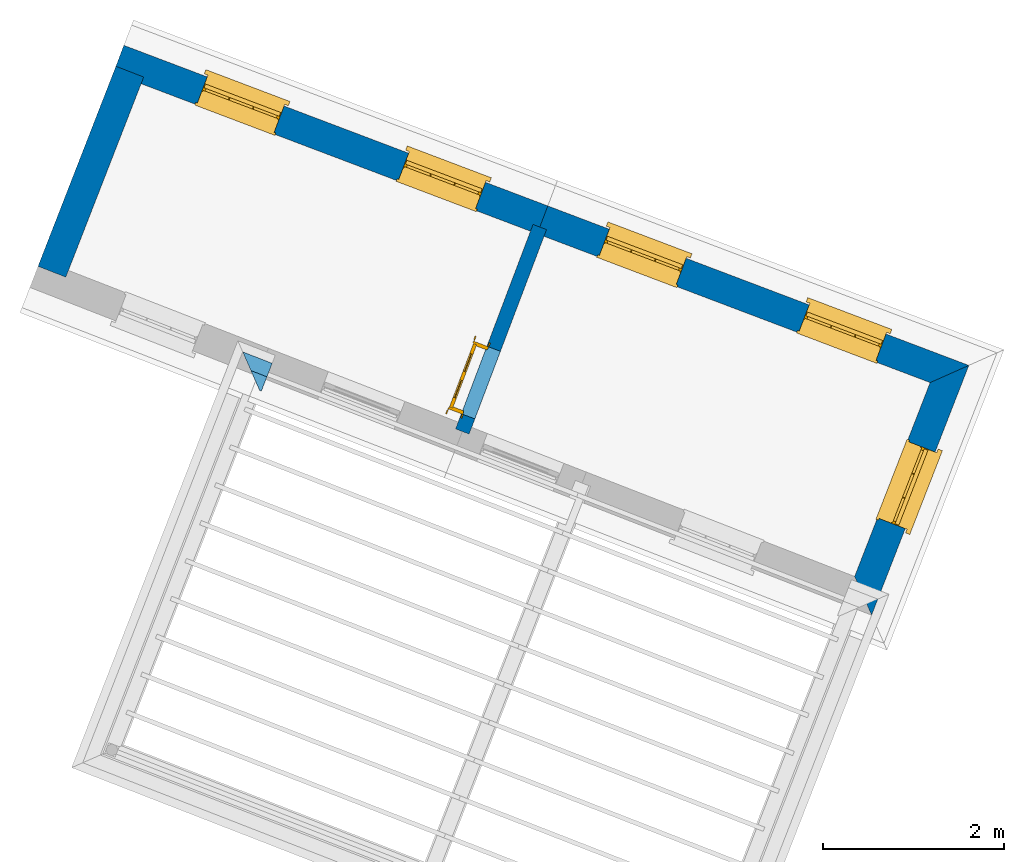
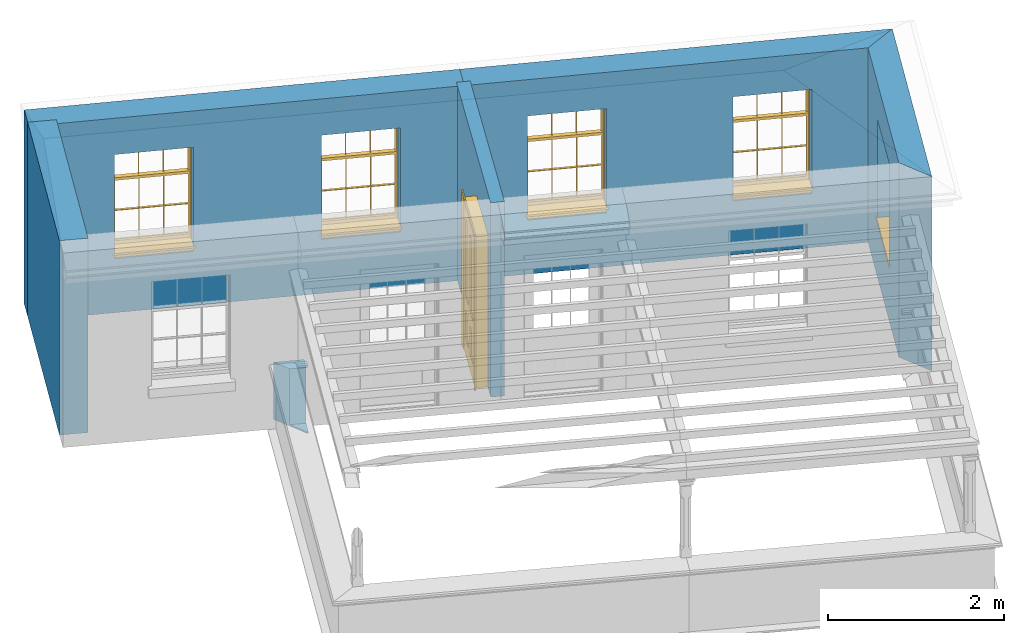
# One storey, part 4 of 5: 6 walls, 5 windows, 1 door, 6 openings.
"""IFC4 building model written with IfcOpenShell, lengths in metres."""

import ifcopenshell
import ifcopenshell.guid

model = None  # the IFC model being written
_history = None  # IfcOwnerHistory: only IFC2X3 demands one
_inside = {}  # id of a spatial element -> (the spatial element, [elements in it])
_under = {}  # id of a project, library or spatial element -> (it, [spatial elements below it])
_declared = {}  # id of a project -> (the project, [libraries it declares])
_typed = {}  # id of a type object -> (the type object, [elements of that type])
_made_of = {}  # id of a material, layer set ... -> (it, [elements and type objects made of it])


def new_model(schema):
    """Start an empty IFC model of exactly this schema.

    Asked for "IFC4X3", IfcOpenShell would pick the latest addendum, in which some entities
    have other attributes; the version numbers below select the first issue.
    IFC2X3 requires an IfcOwnerHistory on every rooted entity: one is made here for all.
    """
    global model, _history
    if schema == "IFC4X3":
        model = ifcopenshell.file(schema_version=(4, 3, 0, 0))
    else:
        model = ifcopenshell.file(schema=schema)
    _inside.clear()
    _under.clear()
    _declared.clear()
    _typed.clear()
    _made_of.clear()
    _history = None
    if model.schema == "IFC2X3":
        org = make("IfcOrganization", Name="unknown")
        user = make(
            "IfcPersonAndOrganization",
            ThePerson=make("IfcPerson", FamilyName="unknown"),
            TheOrganization=org,
        )
        app = make(
            "IfcApplication",
            ApplicationDeveloper=org,
            Version="unknown",
            ApplicationFullName="unknown",
            ApplicationIdentifier="unknown",
        )
        _history = make(
            "IfcOwnerHistory",
            OwningUser=user,
            OwningApplication=app,
            ChangeAction="ADDED",
            CreationDate=0,
        )
    return model


def make(cls, **values):
    """One entity of the class cls with the attributes given. An attribute that is None is left unset."""
    return model.create_entity(
        cls, **{name: value for name, value in values.items() if value is not None}
    )


def rooted(cls, **values):
    """An entity with a GlobalId (a new one), such as an element, a storey or a relation."""
    return make(cls, GlobalId=ifcopenshell.guid.new(), OwnerHistory=_history, **values)


def si_unit(unit_type, name, prefix=None):
    """IfcSIUnit, for example si_unit("LENGTHUNIT", "METRE", prefix="MILLI")."""
    return make("IfcSIUnit", UnitType=unit_type, Prefix=prefix, Name=name)


def assignment(units):
    """IfcUnitAssignment: the units of a project."""
    return None if units is None else make("IfcUnitAssignment", Units=units)


def point(xyz):
    """IfcCartesianPoint."""
    return None if xyz is None else make("IfcCartesianPoint", Coordinates=xyz)


def direction(xyz):
    """IfcDirection."""
    return None if xyz is None else make("IfcDirection", DirectionRatios=xyz)


def frame(location, z_axis=None, x_axis=None):
    """IfcAxis2Placement3D, a coordinate frame: its origin and axes. An axis left out is left unset."""
    return make(
        "IfcAxis2Placement3D",
        Location=point(location),
        Axis=direction(z_axis),
        RefDirection=direction(x_axis),
    )


def origin():
    """The frame at (0, 0, 0) with its axes left unset."""
    return frame((0.0, 0.0, 0.0))


def origin_with_axes():
    """The frame at (0, 0, 0) with the z axis (0, 0, 1) and the x axis (1, 0, 0) written out."""
    return frame((0.0, 0.0, 0.0), z_axis=(0.0, 0.0, 1.0), x_axis=(1.0, 0.0, 0.0))


def place(relative_to, where):
    """IfcLocalPlacement: puts the frame where relative to a parent placement (None: the world)."""
    return make(
        "IfcLocalPlacement", PlacementRelTo=relative_to, RelativePlacement=where
    )


def context(
    kind, dimensions, precision=None, world=None, true_north=None, identifier=None
):
    """IfcGeometricRepresentationContext, for example the 3D "Model" context."""
    return make(
        "IfcGeometricRepresentationContext",
        ContextIdentifier=identifier,
        ContextType=kind,
        CoordinateSpaceDimension=dimensions,
        Precision=precision,
        WorldCoordinateSystem=world,
        TrueNorth=true_north,
    )


def subcontext(parent, identifier, kind, view, scale=None):
    """IfcGeometricRepresentationSubContext, for example "Body" below "Model"."""
    return make(
        "IfcGeometricRepresentationSubContext",
        ContextIdentifier=identifier,
        ContextType=kind,
        ParentContext=parent,
        TargetScale=scale,
        TargetView=view,
    )


def project(units=None, contexts=None):
    """IfcProject with its units and contexts."""
    return rooted(
        "IfcProject",
        Name="project",
        RepresentationContexts=contexts,
        UnitsInContext=assignment(units),
    )


def spatial(cls, under=None, at=None, **own):
    """A site, building, storey or space (cls), placed at a placement, below another one or the project."""
    s = rooted(cls, ObjectPlacement=at, **own)
    if under is not None:
        _under.setdefault(under.id(), (under, []))[1].append(s)
    return s


def polyline(points):
    """IfcPolyline through the points."""
    return make("IfcPolyline", Points=[point(p) for p in points])


def outline(outer, holes=None, kind="AREA"):
    """IfcArbitraryClosedProfileDef: a profile drawn as a closed curve; with holes, ...WithVoids."""
    if holes is None:
        return make("IfcArbitraryClosedProfileDef", ProfileType=kind, OuterCurve=outer)
    return make(
        "IfcArbitraryProfileDefWithVoids",
        ProfileType=kind,
        OuterCurve=outer,
        InnerCurves=holes,
    )


def extrude(swept, where, along, depth):
    """IfcExtrudedAreaSolid: the profile swept, set in the frame where, extruded along a direction by depth."""
    return make(
        "IfcExtrudedAreaSolid",
        SweptArea=swept,
        Position=where,
        ExtrudedDirection=direction(along),
        Depth=depth,
    )


def clip(a, b, op="DIFFERENCE"):
    """IfcBooleanClippingResult: the solid a cut by the half space b."""
    return make(
        "IfcBooleanClippingResult", Operator=op, FirstOperand=a, SecondOperand=b
    )


def halfspace(plane, agree):
    """IfcHalfSpaceSolid: all space on one side of the plane z = 0 of the frame plane."""
    return make(
        "IfcHalfSpaceSolid",
        BaseSurface=make("IfcPlane", Position=plane),
        AgreementFlag=agree,
    )


def faces_of(points, faces, orient=None, outer=None):
    """IfcFace entities. A face is a list of loops; a loop is a list of indices into points, from 0.

    orient and outer hold one flag for each loop. By default every Orientation is true, the
    first loop of a face is its IfcFaceOuterBound and the others are IfcFaceBound.
    """
    made = []
    for i, loops in enumerate(faces):
        bounds = []
        for j, loop in enumerate(loops):
            is_outer = j == 0 if outer is None else outer[i][j]
            bounds.append(
                make(
                    "IfcFaceOuterBound" if is_outer else "IfcFaceBound",
                    Bound=make("IfcPolyLoop", Polygon=[points[k] for k in loop]),
                    Orientation=True if orient is None else orient[i][j],
                )
            )
        made.append(make("IfcFace", Bounds=bounds))
    return made


def faceted_brep(points, faces, orient=None, outer=None, voids=None):
    """IfcFacetedBrep: a solid bounded by flat faces; with voids (closed shells), ...WithVoids."""
    shared = [point(p) for p in points]
    hull = make("IfcClosedShell", CfsFaces=faces_of(shared, faces, orient, outer))
    if voids is None:
        return make("IfcFacetedBrep", Outer=hull)
    return make(
        "IfcFacetedBrepWithVoids",
        Outer=hull,
        Voids=[
            make(cls, CfsFaces=faces_of(shared, fs, o, b)) for cls, fs, o, b in voids
        ],
    )


def shape(context_of_items, identifier, shape_type, items):
    """IfcShapeRepresentation: the items that make up one representation, for example the "Body"."""
    return make(
        "IfcShapeRepresentation",
        ContextOfItems=context_of_items,
        RepresentationIdentifier=identifier,
        RepresentationType=shape_type,
        Items=items,
    )


def source(mapping_origin, context_of_items, identifier, shape_type, items):
    """IfcRepresentationMap: a shape defined once, which mapped items show again and again."""
    return make(
        "IfcRepresentationMap",
        MappingOrigin=mapping_origin,
        MappedRepresentation=shape(context_of_items, identifier, shape_type, items),
    )


def transform(
    local_origin,
    x_axis=None,
    y_axis=None,
    z_axis=None,
    scale=None,
    scale2=None,
    scale3=None,
    uniform=True,
):
    """IfcCartesianTransformationOperator3D, or its non-uniform kind. x_axis, y_axis, z_axis: its Axis1, 2, 3."""
    if uniform:
        return make(
            "IfcCartesianTransformationOperator3D",
            Axis1=direction(x_axis),
            Axis2=direction(y_axis),
            LocalOrigin=point(local_origin),
            Scale=scale,
            Axis3=direction(z_axis),
        )
    return make(
        "IfcCartesianTransformationOperator3DnonUniform",
        Axis1=direction(x_axis),
        Axis2=direction(y_axis),
        LocalOrigin=point(local_origin),
        Scale=scale,
        Axis3=direction(z_axis),
        Scale2=scale2,
        Scale3=scale3,
    )


def mapped(mapping_source, mapping_target):
    """IfcMappedItem: shows the shape of a source again, moved by a transform."""
    return make(
        "IfcMappedItem", MappingSource=mapping_source, MappingTarget=mapping_target
    )


def material(Name=None, Category=None):
    """IfcMaterial."""
    return make("IfcMaterial", Name=Name, Category=Category)


def layer(
    of_material, thickness, ventilated=None, Name=None, Category=None, Priority=None
):
    """IfcMaterialLayer: one layer of a wall or slab, of a material (None: an air gap)."""
    return make(
        "IfcMaterialLayer",
        Material=of_material,
        LayerThickness=thickness,
        IsVentilated=ventilated,
        Name=Name,
        Category=Category,
        Priority=Priority,
    )


def layer_set(layers, Name=None):
    """IfcMaterialLayerSet."""
    return make("IfcMaterialLayerSet", MaterialLayers=layers, LayerSetName=Name)


def layer_usage(for_layer_set, set_direction, sense, offset, extent=None):
    """IfcMaterialLayerSetUsage: how a layer set lies in its element."""
    return make(
        "IfcMaterialLayerSetUsage",
        ForLayerSet=for_layer_set,
        LayerSetDirection=set_direction,
        DirectionSense=sense,
        OffsetFromReferenceLine=offset,
        ReferenceExtent=extent,
    )


def material_profile(
    of_material, cross_section, Name=None, Category=None, Priority=None
):
    """IfcMaterialProfile: a cross section and its material."""
    return make(
        "IfcMaterialProfile",
        Name=Name,
        Material=of_material,
        Profile=cross_section,
        Priority=Priority,
        Category=Category,
    )


def profile_set(profiles, Name=None, composite=None):
    """IfcMaterialProfileSet."""
    return make(
        "IfcMaterialProfileSet",
        Name=Name,
        MaterialProfiles=profiles,
        CompositeProfile=composite,
    )


def profile_usage(for_profile_set, cardinal=None, extent=None):
    """IfcMaterialProfileSetUsage: how a profile set lies along its element."""
    return make(
        "IfcMaterialProfileSetUsage",
        ForProfileSet=for_profile_set,
        CardinalPoint=cardinal,
        ReferenceExtent=extent,
    )


def made_of(thing, what):
    """Note that an element or type object is made of a material, layer set ...; save() writes the relation."""
    if what is not None:
        _made_of.setdefault(what.id(), (what, []))[1].append(thing)
    return thing


def type_object(cls, material=None, **own):
    """A type object (cls), such as IfcWallType, which elements share."""
    return made_of(rooted(cls, **own), material)


def type_shapes(of_type, sources):
    """Give a type object the sources (RepresentationMaps) that its elements show as mapped items."""
    of_type.RepresentationMaps = sources


def element(
    cls,
    number,
    at=None,
    inside=None,
    cuts=None,
    type_object=None,
    material=None,
    context=None,
    identifier="Body",
    shape_type=None,
    held_by="IfcProductDefinitionShape",
    body=None,
    shapes=None,
    **own,
):
    """One element of the class cls, such as IfcWall. Its Tag is "e" and its number.

    at: its placement. inside: the storey or other place that contains it. cuts: it is an
    opening in that element (IfcRelVoidsElement). A single representation is given by context,
    identifier, shape_type and body (its items); several are given by shapes. held_by: the class
    of the entity that holds the representations. save() writes the other relations.
    """
    e = rooted(cls, Tag="e%d" % number, ObjectPlacement=at, **own)
    if body is not None:
        shapes = [shape(context, identifier, shape_type, body)]
    if shapes is not None:
        e.Representation = make(held_by, Representations=shapes)
    if inside is not None:
        _inside.setdefault(inside.id(), (inside, []))[1].append(e)
    if cuts is not None:
        rooted(
            "IfcRelVoidsElement", RelatingBuildingElement=cuts, RelatedOpeningElement=e
        )
    if type_object is not None:
        _typed.setdefault(type_object.id(), (type_object, []))[1].append(e)
    return made_of(e, material)


def fill(opening, filler):
    """IfcRelFillsElement: the door or window that sits in an opening."""
    return rooted(
        "IfcRelFillsElement",
        RelatingOpeningElement=opening,
        RelatedBuildingElement=filler,
    )


def aggregate(whole, parts):
    """IfcRelAggregates: a whole, such as a stair, and the parts it consists of."""
    return rooted("IfcRelAggregates", RelatingObject=whole, RelatedObjects=parts)


def save(model, path):
    """Write the relations noted so far, then the file.

    IfcRelAggregates (storeys below a building ...), IfcRelContainedInSpatialStructure (elements
    in a storey), IfcRelDefinesByType, IfcRelAssociatesMaterial and IfcRelDeclares: one each for
    every whole, place, type object, material and project.
    """
    for whole, parts in _under.values():
        aggregate(whole, parts)
    for where, things in _inside.values():
        rooted(
            "IfcRelContainedInSpatialStructure",
            RelatedElements=things,
            RelatingStructure=where,
        )
    for kind, things in _typed.values():
        rooted("IfcRelDefinesByType", RelatedObjects=things, RelatingType=kind)
    for what, things in _made_of.values():
        rooted("IfcRelAssociatesMaterial", RelatedObjects=things, RelatingMaterial=what)
    for by, libraries in _declared.values():
        rooted("IfcRelDeclares", RelatingContext=by, RelatedDefinitions=libraries)
    model.write(path)


model = new_model("IFC4")

# Units and contexts
model_context = context("Model", 3, world=origin_with_axes())
body_context = subcontext(model_context, "Body", "Model", "MODEL_VIEW")
ifc_project = project(units=[si_unit("PLANEANGLEUNIT", "RADIAN"), si_unit("MASSUNIT", "GRAM", prefix="KILO"), si_unit("FORCEUNIT", "NEWTON", prefix="KILO"), si_unit("LENGTHUNIT", "METRE"), si_unit("AREAUNIT", "SQUARE_METRE"), si_unit("VOLUMEUNIT", "CUBIC_METRE")], contexts=[model_context, model_context])

# Sites, building, storey
site_1_placement = place(None, origin_with_axes())
site_1 = spatial("IfcSite", under=ifc_project, at=site_1_placement, Name="Tamar")
site_2_placement = place(site_1_placement, origin_with_axes())
site_2 = spatial("IfcSite", under=site_1, at=site_2_placement, Name="Site plot-8", CompositionType="ELEMENT")
building_placement = place(None, origin_with_axes())
building = spatial("IfcBuilding", under=site_2, at=building_placement, Name="Building plot-8", CompositionType="ELEMENT")
storey_placement = place(None, frame((0.0, 0.0, 31.55), z_axis=(0.0, 0.0, 1.0), x_axis=(1.0, 0.0, 0.0)))
storey = spatial("IfcBuildingStorey", under=building, at=storey_placement, Name="plot-8 2", CompositionType="ELEMENT", Elevation=31.55)

# Wall, opening, window
ifc_material_1 = material(Name="Masonry")
ifc_layer_1 = layer(ifc_material_1, 0.33, ventilated=False)
ifc_layer_set_1 = layer_set([ifc_layer_1], Name="exterior_0.08_0.25")
ifc_layer_usage_1 = layer_usage(ifc_layer_set_1, "AXIS2", "POSITIVE", -0.25)
wall_type_1 = type_object("IfcWallType", Name="exterior_0.08_0.25", PredefinedType="SOLIDWALL", material=ifc_layer_set_1)
wall_1_placement = place(storey_placement, frame((230.544976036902, 306.768588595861, 0.0), z_axis=(0.0, 0.0, 1.0), x_axis=(0.362808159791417, 0.931863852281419, 0.0)))
wall_1 = element("IfcWall", 1, at=wall_1_placement, inside=storey, type_object=wall_type_1, material=ifc_layer_usage_1, Name="exterior", context=body_context, shape_type="SweptSolid", body=[
    extrude(outline(polyline([(0.0800000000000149, 0.080000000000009), (-0.250000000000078, -0.249999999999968), (2.71687862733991, -0.249999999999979), (2.38382254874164, 0.0800000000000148), (0.0800000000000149, 0.080000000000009)])), origin_with_axes(), (0.0, 0.0, 1.0), 2.7),
])
opening_1_placement = place(wall_1_placement, frame((0.777281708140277, 0.0, 0.749999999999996)))
opening_1 = element("IfcOpeningElement", 2, at=opening_1_placement, cuts=wall_1, Name="My Opening", ObjectType="Opening", context=body_context, shape_type="SweptSolid", body=[
    extrude(outline(polyline([(0.0, -0.269999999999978), (0.910000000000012, -0.269999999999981), (0.909999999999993, 1.1), (-1.94289029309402e-14, 1.1), (0.0, -0.269999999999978)])), origin_with_axes(), (0.0, 0.0, 1.0), 1.445),
])
window_type = type_object("IfcWindowType", Name="sash_shorter", PartitioningType="DOUBLE_PANEL_HORIZONTAL", PredefinedType="NOTDEFINED")
shared_shape_1 = source(origin(), body_context, "Body", "Brep", [
    faceted_brep([(0.876875, 0.145, 0.999097), (0.876875, 0.145, 1.411875), (0.9, 0.145, 1.435), (0.033125, 0.145, 1.411875), (0.033125, 0.145, 0.999097), (0.01, 0.145, 1.435), (0.033125, 0.115, 1.411875), (0.01, 0.115, 1.435), (0.033125, 0.115, 0.999097), (0.876875, 0.115, 1.411875), (0.876875, 0.115, 0.999097), (0.9, 0.115, 1.435), (0.033125, 0.145, 0.960972), (0.01, 0.145, 0.960972), (0.033125, 0.145, 0.548195), (0.876875, 0.145, 0.960972), (0.876875, 0.145, 0.548195), (0.9, 0.145, 0.960972), (0.876875, 0.145, 0.538195), (0.876875, 0.145, 0.125417), (0.9, 0.145, 0.077167), (0.033125, 0.145, 0.125417), (0.033125, 0.145, 0.538195), (0.01, 0.145, 0.077167), (0.9, 0.115, 0.960972), (0.01, 0.115, 0.960972), (-0.0425, 0.0, 0.01), (-0.0425, -0.05, 0.001667), (0.0, 0.0, 0.01), (0.9525, 0.0, 0.01), (0.91, 0.0, 0.01), (0.9525, -0.05, 0.001667), (-0.02, 0.33, 0.077167), (0.0, 0.33, 0.077167), (-0.02, 0.36, 0.077167), (0.0, 0.19, 0.077167), (0.01, 0.19, 0.077167), (0.91, 0.19, 0.077167), (0.91, 0.33, 0.077167), (0.9, 0.19, 0.077167), (0.93, 0.33, 0.077167), (0.93, 0.36, 0.077167), (0.01, 0.145, 0.999097), (0.01, 0.175, 0.999097), (0.9, 0.145, 0.999097), (0.9, 0.175, 0.999097), (0.876875, 0.175, 0.125417), (0.876875, 0.175, 0.538195), (0.9, 0.175, 0.077167), (0.876875, 0.175, 0.548195), (0.876875, 0.175, 0.960972), (0.033125, 0.175, 0.125417), (0.01, 0.175, 0.077167), (0.033125, 0.175, 0.538195), (0.033125, 0.175, 0.960972), (0.033125, 0.175, 0.548195), (-0.02, 0.33, 0.052167), (-0.02, 0.36, 0.052167), (0.93, 0.36, 0.052167), (0.93, 0.33, 0.052167), (0.91, 0.33, 0.052167), (0.0, 0.33, 0.052167), (0.91, 0.1, 0.026667), (0.0, 0.1, 0.026667), (-0.0425, -0.05, -0.123333), (0.9525, -0.05, -0.123333), (-0.0425, 0.0, -0.123333), (0.9525, 0.0, -0.123333), (0.01, 0.19, 1.435), (0.9, 0.19, 1.435), (0.0, 0.19, 1.445), (0.91, 0.19, 1.445), (0.01, 0.1, 0.077167), (0.9, 0.1, 0.077167), (0.592292, 0.145, 0.125417), (0.592292, 0.175, 0.125417), (0.317708, 0.175, 0.125417), (0.317708, 0.145, 0.125417), (0.592292, 0.145, 0.548195), (0.317708, 0.145, 0.548195), (0.317708, 0.145, 0.538195), (0.592292, 0.145, 0.538195), (0.592292, 0.175, 0.548195), (0.317708, 0.175, 0.548195), (0.602292, 0.175, 0.548195), (0.602292, 0.145, 0.548195), (0.317708, 0.175, 0.538195), (0.307708, 0.175, 0.125417), (0.307708, 0.175, 0.538195), (0.602292, 0.175, 0.538195), (0.602292, 0.175, 0.125417), (0.592292, 0.175, 0.538195), (0.307708, 0.175, 0.548195), (0.317708, 0.175, 0.960972), (0.307708, 0.175, 0.960972), (0.602292, 0.175, 0.960972), (0.592292, 0.175, 0.960972), (0.307708, 0.145, 0.538195), (0.307708, 0.145, 0.125417), (0.307708, 0.145, 0.548195), (0.307708, 0.145, 0.960972), (0.592292, 0.145, 0.960972), (0.317708, 0.145, 0.960972), (0.602292, 0.145, 0.960972), (0.602292, 0.145, 0.538195), (0.602292, 0.145, 0.125417), (0.317708, 0.115, 1.411875), (0.307708, 0.115, 1.411875), (0.307708, 0.115, 0.999097), (0.317708, 0.115, 0.999097), (0.602292, 0.115, 1.411875), (0.592292, 0.115, 1.411875), (0.592292, 0.115, 0.999097), (0.602292, 0.115, 0.999097), (0.317708, 0.145, 0.999097), (0.307708, 0.145, 0.999097), (0.307708, 0.145, 1.411875), (0.317708, 0.145, 1.411875), (0.602292, 0.145, 0.999097), (0.592292, 0.145, 0.999097), (0.592292, 0.145, 1.411875), (0.602292, 0.145, 1.411875), (0.91, 0.1, 1.445), (0.9, 0.1, 1.435), (0.01, 0.1, 1.435), (0.0, 0.1, 1.445), (0.91, 0.0, 0.0), (0.0, 0.0, 0.0), (0.91, 0.33, 0.0), (0.0, 0.33, 0.0)], [[[0, 1, 2]], [[3, 4, 5]], [[6, 7, 8]], [[9, 10, 11]], [[12, 13, 14]], [[15, 16, 17]], [[18, 19, 20]], [[21, 22, 23]], [[24, 15, 17]], [[13, 12, 25]], [[26, 27, 28]], [[29, 30, 31]], [[32, 33, 34]], [[35, 36, 33]], [[37, 38, 39]], [[40, 41, 38]], [[42, 4, 43]], [[44, 45, 0]], [[46, 47, 48]], [[49, 50, 45]], [[51, 52, 53]], [[54, 55, 43]], [[38, 33, 36, 39]], [[41, 34, 33, 38]], [[56, 32, 34, 57]], [[57, 34, 41, 58]], [[58, 41, 40, 59]], [[57, 58, 60, 61]], [[52, 48, 39, 36]], [[62, 63, 28, 30]], [[27, 31, 30, 28]], [[27, 64, 65, 31]], [[66, 67, 65, 64]], [[2, 5, 68, 69]], [[68, 70, 71, 69]], [[20, 23, 72, 73]], [[73, 72, 63, 62]], [[74, 75, 76, 77]], [[78, 79, 80, 81]], [[78, 82, 83, 79]], [[16, 49, 84, 85]], [[86, 76, 87, 88]], [[89, 90, 75, 91]], [[92, 88, 53, 55]], [[82, 91, 86, 83]], [[93, 83, 92, 94]], [[95, 84, 82, 96]], [[89, 84, 49, 47]], [[97, 88, 87, 98]], [[22, 53, 88, 97]], [[81, 91, 75, 74]], [[80, 86, 91, 81]], [[77, 76, 86, 80]], [[99, 92, 55, 14]], [[100, 94, 92, 99]], [[101, 96, 82, 78]], [[79, 83, 93, 102]], [[85, 84, 95, 103]], [[104, 89, 47, 18]], [[105, 90, 89, 104]], [[104, 18, 16, 85]], [[80, 97, 98, 77]], [[104, 81, 74, 105]], [[103, 101, 78, 85]], [[99, 14, 22, 97]], [[102, 100, 99, 79]], [[106, 107, 108, 109]], [[110, 111, 112, 113]], [[114, 115, 116, 117]], [[118, 119, 120, 121]], [[107, 116, 115, 108]], [[111, 120, 119, 112]], [[109, 114, 117, 106]], [[113, 118, 121, 110]], [[85, 78, 81, 104]], [[84, 89, 91, 82]], [[83, 86, 88, 92]], [[79, 99, 97, 80]], [[109, 112, 119, 114]], [[102, 93, 96, 101]], [[106, 117, 120, 111]], [[98, 87, 51, 21]], [[6, 3, 116, 107]], [[110, 121, 1, 9]], [[19, 46, 90, 105]], [[26, 66, 64, 27]], [[29, 31, 65, 67]], [[25, 24, 112, 109]], [[11, 7, 106, 111]], [[75, 48, 52, 76]], [[43, 45, 96, 93]], [[45, 43, 114, 119]], [[5, 2, 120, 117]], [[24, 25, 102, 101]], [[42, 5, 4]], [[2, 44, 0]], [[49, 45, 48, 47]], [[52, 43, 55, 53]], [[14, 13, 23, 22]], [[20, 17, 16, 18]], [[24, 11, 10]], [[25, 8, 7]], [[8, 4, 3, 6]], [[9, 1, 0, 10]], [[15, 50, 49, 16]], [[18, 47, 46, 19]], [[21, 51, 53, 22]], [[14, 55, 54, 12]], [[44, 2, 69, 45]], [[68, 5, 42, 43]], [[36, 35, 70, 68]], [[39, 69, 71, 37]], [[62, 122, 123, 73]], [[63, 72, 124, 125]], [[8, 108, 115, 4]], [[113, 10, 0, 118]], [[94, 100, 12, 54]], [[17, 20, 73, 24]], [[72, 23, 13, 25]], [[52, 36, 68, 43]], [[69, 39, 48, 45]], [[11, 24, 73, 123]], [[7, 124, 72, 25]], [[23, 77, 98]], [[98, 21, 23]], [[105, 74, 20]], [[20, 19, 105]], [[20, 74, 77, 23]], [[113, 112, 24]], [[24, 10, 113]], [[25, 109, 108]], [[108, 8, 25]], [[110, 9, 11]], [[11, 111, 110]], [[7, 6, 107]], [[107, 106, 7]], [[5, 117, 116]], [[116, 3, 5]], [[121, 120, 2]], [[2, 1, 121]], [[11, 123, 124, 7]], [[122, 125, 124, 123]], [[43, 93, 94]], [[94, 54, 43]], [[96, 45, 95]], [[50, 95, 45]], [[15, 103, 95, 50]], [[48, 75, 90]], [[90, 46, 48]], [[87, 76, 52]], [[52, 51, 87]], [[103, 15, 24]], [[24, 101, 103]], [[100, 102, 25]], [[25, 12, 100]], [[115, 114, 43]], [[43, 4, 115]], [[118, 0, 45]], [[45, 119, 118]], [[71, 70, 125, 122]], [[70, 35, 63, 125]], [[122, 62, 37, 71]], [[126, 67, 66, 127]], [[60, 58, 59]], [[38, 60, 59, 40]], [[61, 56, 57]], [[32, 56, 61, 33]], [[61, 60, 128, 129]], [[62, 60, 38, 37]], [[126, 128, 60, 62]], [[33, 61, 63, 35]], [[61, 129, 127, 63]], [[128, 126, 127, 129]], [[28, 127, 66, 26]], [[63, 127, 28]], [[29, 67, 126, 30]], [[30, 126, 62]]]),
])
type_shapes(window_type, [shared_shape_1])
window_1_placement = place(storey_placement, frame((231.078583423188, 307.394951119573, 0.749999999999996), z_axis=(0.0, 0.0, 1.0), x_axis=(0.330155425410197, 0.847996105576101, 0.0)))
window_1 = element("IfcWindow", 3, at=window_1_placement, inside=storey, type_object=window_type, Name="circulation outside window", OverallHeight=1.445, OverallWidth=0.91, context=body_context, shape_type="MappedRepresentation", body=[
    mapped(shared_shape_1, transform((0.0, 0.0, 0.0), scale=1.0)),
])
fill(opening_1, window_1)

# Wall, openings, windows
wall_2_placement = place(storey_placement, frame((231.439139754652, 309.065226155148, 0.0), z_axis=(0.0, 0.0, 1.0), x_axis=(-0.935168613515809, 0.354202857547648, 0.0)))
wall_2 = element("IfcWall", 4, at=wall_2_placement, inside=storey, type_object=wall_type_1, material=ifc_layer_usage_1, Name="exterior", context=body_context, shape_type="SweptSolid", body=[
    extrude(outline(polyline([(0.0807408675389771, 0.0799999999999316), (-0.252315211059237, -0.250000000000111), (4.73179125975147, -0.24999999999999), (4.73179125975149, 0.0799999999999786), (0.0807408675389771, 0.0799999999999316)])), origin_with_axes(), (0.0, 0.0, 1.0), 2.7),
])
opening_2_placement = place(wall_2_placement, frame((0.727947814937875, 0.0, 0.749999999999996)))
opening_2 = element("IfcOpeningElement", 5, at=opening_2_placement, cuts=wall_2, Name="My Opening", ObjectType="Opening", context=body_context, shape_type="SweptSolid", body=[
    extrude(outline(polyline([(0.0, -0.270000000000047), (0.909999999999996, -0.270000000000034), (0.909999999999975, 1.10000000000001), (-2.16493489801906e-14, 1.1), (0.0, -0.270000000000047)])), origin_with_axes(), (0.0, 0.0, 1.0), 1.445),
])
opening_3_placement = place(wall_2_placement, frame((3.0938434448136, 0.0, 0.749999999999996)))
opening_3 = element("IfcOpeningElement", 6, at=opening_3_placement, cuts=wall_2, Name="My Opening", ObjectType="Opening", context=body_context, shape_type="SweptSolid", body=[
    extrude(outline(polyline([(0.0, -0.270000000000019), (0.909999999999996, -0.270000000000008), (0.909999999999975, 1.10000000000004), (-2.22044604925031e-14, 1.10000000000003), (0.0, -0.270000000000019)])), origin_with_axes(), (0.0, 0.0, 1.0), 1.445),
])
window_2_placement = place(storey_placement, frame((230.854020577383, 309.575562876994, 0.749999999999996), z_axis=(0.0, 0.0, 1.0), x_axis=(-0.851003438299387, 0.322324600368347, 0.0)))
window_2 = element("IfcWindow", 7, at=window_2_placement, inside=storey, type_object=window_type, Name="circulation outside window", OverallHeight=1.445, OverallWidth=0.91, context=body_context, shape_type="MappedRepresentation", body=[
    mapped(shared_shape_1, transform((0.0, 0.0, 0.0), scale=1.0)),
])
fill(opening_2, window_2)
window_3_placement = place(storey_placement, frame((228.641509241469, 310.413569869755, 0.749999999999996), z_axis=(0.0, 0.0, 1.0), x_axis=(-0.851003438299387, 0.322324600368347, 0.0)))
window_3 = element("IfcWindow", 8, at=window_3_placement, inside=storey, type_object=window_type, Name="circulation outside window", OverallHeight=1.445, OverallWidth=0.91, context=body_context, shape_type="MappedRepresentation", body=[
    mapped(shared_shape_1, transform((0.0, 0.0, 0.0), scale=1.0)),
])
fill(opening_3, window_3)

wall_3_placement = place(storey_placement, frame((227.014117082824, 310.741240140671, 0.0), z_axis=(0.0, 0.0, 1.0), x_axis=(-0.935168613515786, 0.354202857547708, 0.0)))
wall_3 = element("IfcWall", 9, at=wall_3_placement, inside=storey, type_object=wall_type_1, material=ifc_layer_usage_1, Name="exterior", context=body_context, shape_type="SweptSolid", body=[
    extrude(outline(polyline([(1.22972879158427e-14, 0.0799999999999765), (1.25608282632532e-14, -0.249999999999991), (5.01861237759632, -0.250000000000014), (5.01861237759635, 0.0799999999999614), (1.22972879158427e-14, 0.0799999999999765)])), origin_with_axes(), (0.0, 0.0, 1.0), 2.7),
])
opening_4_placement = place(wall_3_placement, frame((0.737153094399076, 0.0, 0.749999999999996)))
opening_4 = element("IfcOpeningElement", 10, at=opening_4_placement, cuts=wall_3, Name="My Opening", ObjectType="Opening", context=body_context, shape_type="SweptSolid", body=[
    extrude(outline(polyline([(0.0, -0.269999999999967), (0.909999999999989, -0.269999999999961), (0.910000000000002, 1.10000000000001), (1.22124532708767e-14, 1.1), (0.0, -0.269999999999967)])), origin_with_axes(), (0.0, 0.0, 1.0), 1.445),
])
opening_5_placement = place(wall_3_placement, frame((3.12145928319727, 0.0, 0.749999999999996)))
opening_5 = element("IfcOpeningElement", 11, at=opening_5_placement, cuts=wall_3, Name="My Opening", ObjectType="Opening", context=body_context, shape_type="SweptSolid", body=[
    extrude(outline(polyline([(0.0, -0.269999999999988), (0.90999999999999, -0.269999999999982), (0.910000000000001, 1.09999999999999), (1.19904086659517e-14, 1.09999999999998), (0.0, -0.269999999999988)])), origin_with_axes(), (0.0, 0.0, 1.0), 1.445),
])
window_4_placement = place(storey_placement, frame((226.420389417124, 311.254837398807, 0.749999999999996), z_axis=(0.0, 0.0, 1.0), x_axis=(-0.851003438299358, 0.322324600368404, 0.0)))
window_4 = element("IfcWindow", 12, at=window_4_placement, inside=storey, type_object=window_type, Name="bedroom outside window", OverallHeight=1.445, OverallWidth=0.91, context=body_context, shape_type="MappedRepresentation", body=[
    mapped(shared_shape_1, transform((0.0, 0.0, 0.0), scale=1.0)),
])
fill(opening_4, window_4)
window_5_placement = place(storey_placement, frame((224.190661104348, 312.099365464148, 0.749999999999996), z_axis=(0.0, 0.0, 1.0), x_axis=(-0.851003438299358, 0.322324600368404, 0.0)))
window_5 = element("IfcWindow", 13, at=window_5_placement, inside=storey, type_object=window_type, Name="bedroom outside window", OverallHeight=1.445, OverallWidth=0.91, context=body_context, shape_type="MappedRepresentation", body=[
    mapped(shared_shape_1, transform((0.0, 0.0, 0.0), scale=1.0)),
])
fill(opening_5, window_5)

# Wall
ifc_material_2 = material(Name="Masonry")
ifc_layer_2 = layer(ifc_material_2, 0.33, ventilated=False)
ifc_layer_set_2 = layer_set([ifc_layer_2], Name="party_0.08_0.25")
ifc_layer_usage_2 = layer_usage(ifc_layer_set_2, "AXIS2", "POSITIVE", -0.25)
wall_type_2 = type_object("IfcWallType", Name="party_0.08_0.25", PredefinedType="SOLIDWALL", material=ifc_layer_set_2)
wall_4_placement = place(storey_placement, frame((222.554660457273, 312.430296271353, 0.0), z_axis=(0.0, 0.0, 1.0), x_axis=(-0.362808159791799, -0.93186385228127, 0.0)))
element("IfcWall", 14, at=wall_4_placement, inside=storey, type_object=wall_type_2, material=ifc_layer_usage_2, Name="party", context=body_context, shape_type="SweptSolid", body=[
    extrude(outline(polyline([(-1.1525488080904e-14, 0.0800000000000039), (1.90001218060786e-14, -0.249999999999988), (2.37698903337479, -0.249999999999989), (2.37698903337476, 0.0800000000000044), (-1.1525488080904e-14, 0.0800000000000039)])), origin_with_axes(), (0.0, 0.0, 1.0), 2.7),
])

# Wall, opening, door
ifc_material_3 = material(Name="Masonry")
ifc_layer_3 = layer(ifc_material_3, 0.16, ventilated=False)
ifc_layer_set_3 = layer_set([ifc_layer_3], Name="interior_0.08_0.08")
ifc_layer_usage_3 = layer_usage(ifc_layer_set_3, "AXIS2", "POSITIVE", -0.08)
wall_type_3 = type_object("IfcWallType", Name="interior_0.08_0.08", PredefinedType="SOLIDWALL", material=ifc_layer_set_3)
wall_5_placement = place(storey_placement, frame((226.156574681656, 308.477151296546, 0.0), z_axis=(0.0, 0.0, 1.0), x_axis=(0.354202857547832, 0.935168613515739, 0.0)))
wall_5 = element("IfcWall", 15, at=wall_5_placement, inside=storey, type_object=wall_type_3, material=ifc_layer_usage_3, Name="interior", context=body_context, shape_type="SweptSolid", body=[
    extrude(outline(polyline([(1.81770290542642e-14, 0.0800000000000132), (-1.8149468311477e-14, -0.0800000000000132), (2.4210487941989, -0.0800000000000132), (2.42104879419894, 0.0800000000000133), (1.81770290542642e-14, 0.0800000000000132)])), origin_with_axes(), (0.0, 0.0, 1.0), 2.7),
])
opening_6_placement = place(wall_5_placement, frame((0.179999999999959, 0.0, 0.0199999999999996)))
opening_6 = element("IfcOpeningElement", 16, at=opening_6_placement, cuts=wall_5, Name="My Opening", ObjectType="Opening", context=body_context, shape_type="SweptSolid", body=[
    extrude(outline(polyline([(0.0, -0.0999999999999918), (0.800000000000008, -0.100000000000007), (0.800000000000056, 1.09999999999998), (4.68514116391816e-14, 1.1), (0.0, -0.0999999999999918)])), origin_with_axes(), (0.0, 0.0, 1.0), 2.1),
])
door_type = type_object("IfcDoorType", Name="door_inside", OperationType="SINGLE_SWING_LEFT", PredefinedType="NOTDEFINED")
shared_shape_2 = source(origin(), body_context, "Body", "Brep", [
    faceted_brep([(0.773, 0.33, 1.895), (0.66, 0.33, 1.895), (0.66, 0.33, 2.073), (0.773, 0.33, 2.073), (0.773, 0.33, 0.82), (0.66, 0.33, 0.82), (0.45, 0.33, 1.895), (0.45, 0.33, 2.073), (0.773, 0.33, 0.62), (0.66, 0.33, 0.62), (0.66, 0.315, 0.82), (0.66, 0.315, 1.895), (0.45, 0.315, 1.895), (0.35, 0.33, 1.895), (0.35, 0.33, 2.073), (0.773, 0.33, 0.225), (0.66, 0.33, 0.225), (0.45, 0.33, 0.62), (0.45, 0.33, 0.82), (0.45, 0.315, 0.82), (0.35, 0.33, 0.82), (0.14, 0.33, 2.073), (0.14, 0.33, 1.895), (0.773, 0.33, 0.0), (0.66, 0.33, 0.0), (0.66, 0.315, 0.225), (0.66, 0.315, 0.62), (0.45, 0.315, 0.62), (0.35, 0.33, 0.62), (0.35, 0.315, 0.82), (0.35, 0.315, 1.895), (0.14, 0.315, 1.895), (0.027, 0.33, 2.073), (0.027, 0.33, 1.895), (0.773, 0.292, 0.0), (0.66, 0.292, 0.0), (0.45, 0.33, 0.0), (0.45, 0.33, 0.225), (0.45, 0.315, 0.225), (0.35, 0.33, 0.225), (0.14, 0.33, 0.82), (0.14, 0.33, 0.62), (0.14, 0.315, 0.82), (0.027, 0.33, 0.82), (0.773, 0.292, 0.225), (0.66, 0.292, 0.225), (0.45, 0.292, 0.0), (0.35, 0.33, 0.0), (0.35, 0.315, 0.225), (0.35, 0.315, 0.62), (0.14, 0.315, 0.62), (0.027, 0.33, 0.62), (0.773, 0.292, 0.62), (0.66, 0.292, 0.62), (0.45, 0.292, 0.225), (0.35, 0.292, 0.0), (0.14, 0.33, 0.225), (0.14, 0.33, 0.0), (0.14, 0.315, 0.225), (0.027, 0.33, 0.225), (0.773, 0.292, 0.82), (0.66, 0.292, 0.82), (0.66, 0.307, 0.62), (0.66, 0.307, 0.225), (0.45, 0.307, 0.225), (0.35, 0.292, 0.225), (0.14, 0.292, 0.0), (0.027, 0.33, 0.0), (0.773, 0.292, 1.895), (0.66, 0.292, 1.895), (0.45, 0.292, 0.62), (0.45, 0.292, 0.82), (0.45, 0.307, 0.62), (0.35, 0.292, 0.62), (0.14, 0.292, 0.225), (0.027, 0.292, 0.0), (0.773, 0.292, 2.073), (0.66, 0.292, 2.073), (0.66, 0.307, 1.895), (0.66, 0.307, 0.82), (0.45, 0.307, 0.82), (0.35, 0.292, 0.82), (0.35, 0.307, 0.62), (0.35, 0.307, 0.225), (0.14, 0.307, 0.225), (0.027, 0.292, 0.225), (0.45, 0.292, 1.895), (0.45, 0.292, 2.073), (0.45, 0.307, 1.895), (0.35, 0.292, 1.895), (0.14, 0.292, 0.82), (0.14, 0.292, 0.62), (0.14, 0.307, 0.62), (0.027, 0.292, 0.62), (0.35, 0.292, 2.073), (0.35, 0.307, 1.895), (0.35, 0.307, 0.82), (0.14, 0.307, 0.82), (0.027, 0.292, 0.82), (0.14, 0.292, 2.073), (0.14, 0.292, 1.895), (0.14, 0.307, 1.895), (0.027, 0.292, 1.895), (0.027, 0.292, 2.073), (0.02, 0.335, 0.0), (0.005, 0.34, 0.0), (0.005, 0.34, 2.095), (0.02, 0.335, 2.08), (0.02, 0.33, 0.0), (0.0, 0.335, 0.0), (0.0, 0.335, 2.1), (0.795, 0.34, 2.095), (0.78, 0.335, 2.08), (0.02, 0.33, 2.08), (0.0, 0.33, 0.0), (-0.032, 0.345, 0.0), (-0.032, 0.345, 2.132), (0.8, 0.335, 2.1), (0.795, 0.34, 0.0), (0.78, 0.335, 0.0), (0.78, 0.33, 2.08), (0.04, 0.29, 0.0), (0.025, 0.29, 0.0), (0.025, 0.29, 2.075), (0.04, 0.29, 2.06), (-0.04, 0.34, 0.0), (-0.04, 0.34, 2.14), (0.832, 0.345, 2.132), (0.8, 0.335, 0.0), (0.78, 0.33, 0.0), (0.8, 0.33, 0.0), (0.86, 0.33, 0.0), (0.86, 0.33, 2.16), (0.8, 0.33, 2.1), (-0.06, 0.33, 2.16), (0.0, 0.33, 2.1), (-0.06, 0.33, 0.0), (-0.04, 0.345, 0.0), (-0.04, 0.345, 2.14), (0.84, 0.34, 2.14), (0.832, 0.345, 0.0), (0.84, 0.34, 0.0), (0.86, 0.345, 0.0), (0.86, 0.345, 2.16), (-0.06, 0.345, 2.16), (-0.06, 0.345, 0.0), (0.84, 0.345, 0.0), (0.84, 0.345, 2.14), (-0.025, 0.155, 0.0), (-0.025, 0.16, 0.0), (-0.025, 0.16, 2.125), (-0.025, 0.155, 2.125), (-0.017, 0.155, 0.0), (-0.017, 0.155, 2.117), (0.825, 0.16, 2.125), (0.825, 0.155, 2.125), (0.825, 0.155, 0.0), (0.845, 0.155, 0.0), (-0.045, 0.155, 2.145), (-0.045, 0.155, 0.0), (0.845, 0.155, 2.145), (0.015, 0.165, 0.0), (0.015, 0.165, 2.085), (0.817, 0.155, 2.117), (0.825, 0.16, 0.0), (0.845, 0.17, 0.0), (0.845, 0.17, 2.145), (-0.045, 0.17, 2.145), (-0.045, 0.17, 0.0), (0.02, 0.16, 0.0), (0.02, 0.16, 2.08), (0.785, 0.165, 2.085), (0.817, 0.155, 0.0), (0.8, 0.17, 0.0), (0.8, 0.17, 2.1), (0.0, 0.17, 2.1), (0.0, 0.17, 0.0), (0.035, 0.165, 0.0), (0.035, 0.165, 2.065), (0.78, 0.16, 2.08), (0.785, 0.165, 0.0), (0.775, 0.29, 2.075), (0.76, 0.29, 2.06), (0.035, 0.17, 2.065), (0.035, 0.17, 0.0), (0.765, 0.165, 2.065), (0.78, 0.16, 0.0), (0.765, 0.17, 0.0), (0.765, 0.17, 2.065), (0.765, 0.165, 0.0), (0.04, 0.17, 2.06), (0.04, 0.17, 0.0), (0.76, 0.17, 2.06), (0.76, 0.17, 0.0), (0.76, 0.29, 0.0), (0.775, 0.29, 0.0), (0.025, 0.33, 0.0), (0.025, 0.33, 2.075), (0.775, 0.33, 0.0), (0.775, 0.33, 2.075)], [[[0, 1, 2, 3]], [[1, 0, 4, 5]], [[1, 6, 7, 2]], [[8, 9, 5, 4]], [[1, 5, 10, 11]], [[6, 1, 11, 12]], [[6, 13, 14, 7]], [[15, 16, 9, 8]], [[9, 17, 18, 5]], [[5, 18, 19, 10]], [[10, 19, 12, 11]], [[18, 6, 12, 19]], [[18, 20, 13, 6]], [[21, 14, 13, 22]], [[23, 24, 16, 15]], [[9, 16, 25, 26]], [[17, 9, 26, 27]], [[17, 28, 20, 18]], [[13, 20, 29, 30]], [[22, 13, 30, 31]], [[32, 21, 22, 33]], [[34, 35, 24, 23]], [[24, 36, 37, 16]], [[16, 37, 38, 25]], [[25, 38, 27, 26]], [[37, 17, 27, 38]], [[37, 39, 28, 17]], [[40, 20, 28, 41]], [[20, 40, 42, 29]], [[31, 30, 29, 42]], [[40, 22, 31, 42]], [[33, 22, 40, 43]], [[35, 34, 44, 45]], [[35, 46, 36, 24]], [[36, 47, 39, 37]], [[28, 39, 48, 49]], [[41, 28, 49, 50]], [[43, 40, 41, 51]], [[45, 44, 52, 53]], [[46, 35, 45, 54]], [[46, 55, 47, 36]], [[56, 39, 47, 57]], [[39, 56, 58, 48]], [[50, 49, 48, 58]], [[56, 41, 50, 58]], [[51, 41, 56, 59]], [[53, 52, 60, 61]], [[45, 53, 62, 63]], [[54, 45, 63, 64]], [[55, 46, 54, 65]], [[55, 66, 57, 47]], [[59, 56, 57, 67]], [[61, 60, 68, 69]], [[70, 53, 61, 71]], [[53, 70, 72, 62]], [[72, 64, 63, 62]], [[70, 54, 64, 72]], [[65, 54, 70, 73]], [[65, 74, 66, 55]], [[67, 57, 66, 75]], [[69, 68, 76, 77]], [[61, 69, 78, 79]], [[71, 61, 79, 80]], [[73, 70, 71, 81]], [[65, 73, 82, 83]], [[74, 65, 83, 84]], [[74, 85, 75, 66]], [[86, 69, 77, 87]], [[69, 86, 88, 78]], [[88, 80, 79, 78]], [[86, 71, 80, 88]], [[81, 71, 86, 89]], [[73, 81, 90, 91]], [[73, 91, 92, 82]], [[83, 82, 92, 84]], [[91, 74, 84, 92]], [[91, 93, 85, 74]], [[89, 86, 87, 94]], [[81, 89, 95, 96]], [[90, 81, 96, 97]], [[90, 98, 93, 91]], [[94, 99, 100, 89]], [[89, 100, 101, 95]], [[101, 97, 96, 95]], [[100, 90, 97, 101]], [[100, 102, 98, 90]], [[99, 103, 102, 100]], [[32, 103, 99, 21]], [[102, 103, 32, 33]], [[98, 102, 33, 43]], [[21, 99, 94, 14]], [[94, 87, 7, 14]], [[7, 87, 77, 2]], [[76, 3, 2, 77]], [[43, 51, 93, 98]], [[51, 59, 85, 93]], [[67, 75, 85, 59]], [[34, 23, 15, 44]], [[44, 15, 8, 52]], [[52, 8, 4, 60]], [[0, 68, 60, 4]], [[0, 3, 76, 68]], [[104, 105, 106, 107]], [[104, 108, 109, 105]], [[105, 109, 110, 106]], [[107, 106, 111, 112]], [[107, 113, 108, 104]], [[114, 109, 108]], [[109, 115, 116, 110]], [[106, 110, 117, 111]], [[112, 111, 118, 119]], [[113, 107, 112, 120]], [[121, 122, 123, 124]], [[115, 109, 114, 125]], [[115, 125, 126, 116]], [[110, 116, 127, 117]], [[111, 117, 128, 118]], [[118, 128, 129, 119]], [[120, 112, 119, 129]], [[130, 129, 128]], [[130, 131, 132, 133]], [[133, 132, 134, 135]], [[135, 134, 136, 114]], [[136, 125, 114]], [[125, 137, 138, 126]], [[116, 126, 139, 127]], [[117, 127, 140, 128]], [[141, 130, 128, 140]], [[131, 130, 141]], [[131, 142, 143, 132]], [[132, 143, 144, 134]], [[134, 144, 145, 136]], [[137, 125, 136, 145]], [[143, 142, 146]], [[143, 146, 147]], [[137, 145, 144]], [[143, 147, 138]], [[138, 137, 144]], [[143, 138, 144]], [[126, 138, 147, 139]], [[127, 139, 141, 140]], [[142, 131, 141, 146]], [[139, 147, 146, 141]], [[148, 149, 150, 151]], [[149, 152, 153, 150]], [[151, 150, 154, 155]], [[155, 156, 157]], [[158, 159, 148]], [[158, 148, 151]], [[155, 157, 160]], [[158, 151, 155]], [[155, 160, 158]], [[152, 161, 162, 153]], [[150, 153, 163, 154]], [[155, 154, 164, 156]], [[156, 164, 165, 157]], [[157, 165, 166, 160]], [[160, 166, 167, 158]], [[158, 167, 168, 159]], [[161, 169, 170, 162]], [[153, 162, 171, 163]], [[154, 163, 172, 164]], [[165, 164, 173]], [[165, 173, 174, 166]], [[166, 174, 175, 167]], [[167, 175, 176, 168]], [[169, 177, 178, 170]], [[162, 170, 179, 171]], [[163, 171, 180, 172]], [[172, 180, 173, 164]], [[124, 123, 181, 182]], [[183, 178, 177, 184]], [[170, 178, 185, 179]], [[171, 179, 186, 180]], [[187, 173, 180]], [[185, 188, 187, 189]], [[188, 185, 178, 183]], [[179, 185, 189, 186]], [[189, 187, 180, 186]], [[190, 183, 184, 191]], [[192, 188, 183, 190]], [[191, 184, 122, 121]], [[124, 190, 191, 121]], [[193, 187, 188, 192]], [[182, 192, 190, 124]], [[184, 176, 122]], [[194, 195, 187, 193]], [[192, 182, 194, 193]], [[161, 176, 184]], [[114, 108, 122, 176]], [[173, 187, 195]], [[152, 149, 176, 161]], [[169, 161, 184, 177]], [[196, 122, 108]], [[176, 175, 135, 114]], [[173, 195, 129, 130]], [[176, 149, 168]], [[123, 122, 196, 197]], [[196, 108, 113, 197]], [[175, 174, 133, 135]], [[198, 129, 195]], [[133, 174, 173, 130]], [[159, 168, 149, 148]], [[181, 123, 197, 199]], [[197, 113, 120, 199]], [[199, 120, 129, 198]], [[195, 181, 199, 198]], [[195, 194, 182, 181]]]),
])
type_shapes(door_type, [shared_shape_2])
door_placement = place(storey_placement, frame((226.313848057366, 308.610061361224, 0.0199999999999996), z_axis=(0.0, 0.0, 1.0), x_axis=(0.283362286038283, 0.748134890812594, 0.0)))
door = element("IfcDoor", 17, at=door_placement, inside=storey, type_object=door_type, Name="bedroom inside door", OverallHeight=2.1, OverallWidth=0.8, context=body_context, shape_type="MappedRepresentation", body=[
    mapped(shared_shape_2, transform((0.0, 0.0, 0.0), scale=1.0)),
])
fill(opening_6, door)

# Wall
ifc_material_profile = material_profile(None, outline(polyline([(0.25, 0.0), (0.25, 0.795), (0.09, 0.795), (0.09, 0.02), (-0.08, 0.02), (-0.08, 0.0), (0.25, 0.0)])))
ifc_profile_set = profile_set([ifc_material_profile])
ifc_profile_usage = profile_usage(ifc_profile_set)
wall_type_4 = type_object("IfcWallType", Name="parapet_0", PredefinedType="PARAPET", material=ifc_profile_set)
wall_6_placement = place(storey_placement, frame((222.935647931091, 309.398507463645, 0.0), z_axis=(0.931863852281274, -0.362808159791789, 0.0), x_axis=(0.362808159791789, 0.931863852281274, 0.0)))
element("IfcWall", 18, at=wall_6_placement, inside=storey, type_object=wall_type_4, material=ifc_profile_usage, Name="parapet_0", context=body_context, shape_type="Clipping", body=[
    clip(clip(extrude(outline(polyline([(0.25, 0.0), (0.25, 0.795), (0.09, 0.795), (0.09, 0.02), (-0.08, 0.02), (-0.08, 0.0), (0.25, 0.0)])), origin_with_axes(), (0.0, 0.0, 1.0), 2.10000000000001), halfspace(frame((0.0, 0.0, 1.10000000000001), z_axis=(1.41496223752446e-14, 0.0, -1.0), x_axis=(0.0, 1.0, 0.0)), True)), halfspace(frame((0.0, 0.0, 1.0), z_axis=(-0.707106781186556, 0.0, -0.707106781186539), x_axis=(0.0, 1.0, 0.0)), False)),
])

save(model, "model.ifc")
